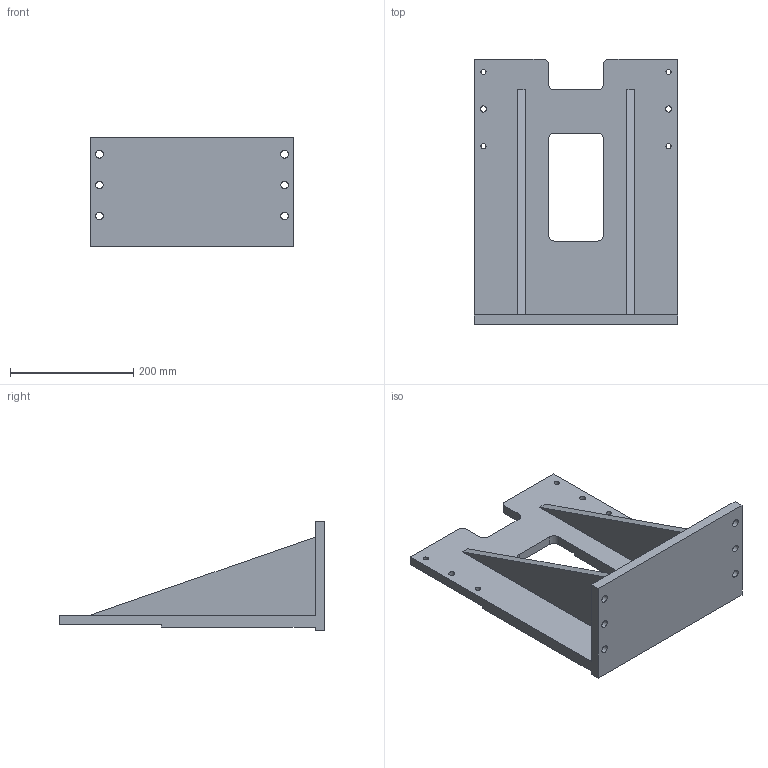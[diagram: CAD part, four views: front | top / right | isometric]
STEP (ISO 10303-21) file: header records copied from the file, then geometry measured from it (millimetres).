
FILE_DESCRIPTION(/* description */ ('DB4-RISER'),/* implementation_level */ '2;1');
FILE_NAME(/* name */ 'C:\Vault Workspace\CAD\Welker\Shot Pin\DBL40\S01896 DB4 Mounting Accessories\S01896E02\S01896E02-350.stp',/* time_stamp */ '2016-05-04T13:50:28-04:00',/* author */ ('klabrecque'),/* organization */ (''),/* preprocessor_version */ 'ST-DEVELOPER v15.2',/* originating_system */ 'Autodesk Inventor 2014',/* authorisation */ '');
FILE_SCHEMA (('AUTOMOTIVE_DESIGN { 1 0 10303 214 3 1 1 }'));
Length unit declared in the file: millimetre
Products named in the file (1): S01896E02-350
Bounding box: 330 x 431 x 177.8 mm (x, y, z)
Volume: 3550646.5 mm3; surface area: 485781.7 mm2
Topology: 1 solids, 1 shells, 47 faces, 150 edges, 104 vertices
Faces by surface type: plane 29, cylinder 18
Full cylindrical faces by diameter (mm): 8.376 x4, 10 x2, 12 x2, 12.5 x4
Entity records: 1628 total; most frequent: CARTESIAN_POINT 266, DIRECTION 258, ORIENTED_EDGE 252, EDGE_CURVE 126, VERTEX_POINT 92, LINE 90, VECTOR 90, EDGE_LOOP 84
